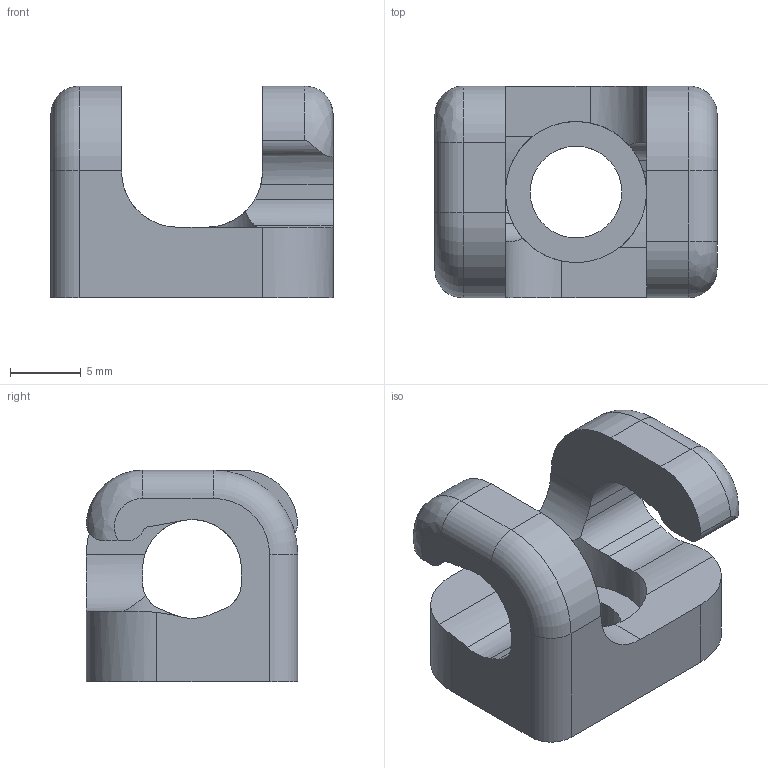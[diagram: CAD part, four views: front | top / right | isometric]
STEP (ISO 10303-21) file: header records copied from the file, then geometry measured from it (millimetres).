
FILE_DESCRIPTION(/* description */ (''),/* implementation_level */ '2;1');
FILE_NAME(/* name */ 'Cable Manager v01 v2.step',/* time_stamp */ '2023-07-08T15:10:27-07:00',/* author */ (''),/* organization */ (''),/* preprocessor_version */ 'ST-DEVELOPER v19.2',/* originating_system */ 'Autodesk Translation Framework v12.6.0.85',/* authorisation */ '');
FILE_SCHEMA (('AUTOMOTIVE_DESIGN { 1 0 10303 214 3 1 1 }'));
Length unit declared in the file: millimetre
Products named in the file (1): Cable Manager v01
Bounding box: 20 x 15 x 15 mm (x, y, z)
Volume: 1881.7 mm3; surface area: 1589.3 mm2
Topology: 1 solids, 1 shells, 52 faces, 142 edges, 92 vertices
Faces by surface type: cylinder 32, plane 16, bspline 2, torus 2
Full cylindrical faces by diameter (mm): 6.5 x1, 10 x1
Entity records: 1813 total; most frequent: CARTESIAN_POINT 452, ORIENTED_EDGE 284, DIRECTION 282, EDGE_CURVE 142, AXIS2_PLACEMENT_3D 110, VERTEX_POINT 92, LINE 62, VECTOR 62
